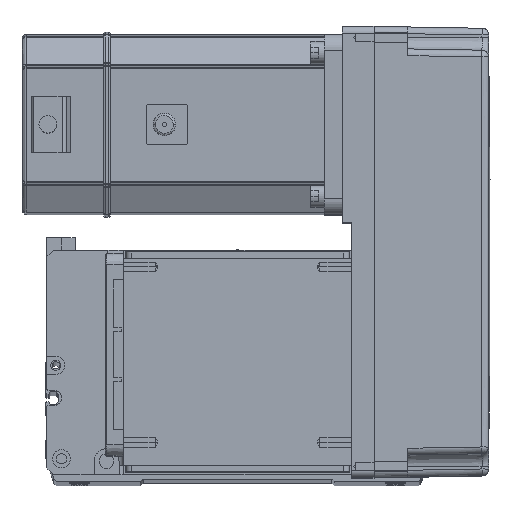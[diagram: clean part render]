
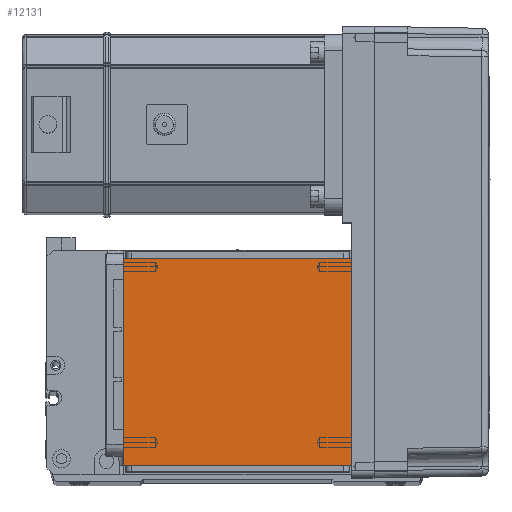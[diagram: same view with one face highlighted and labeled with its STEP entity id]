
A CAD part, top view. The second image highlights one B-rep face of the part: STEP entity #12131.
In plain terms, the highlighted planar face has unit normal (0, 0, 1).
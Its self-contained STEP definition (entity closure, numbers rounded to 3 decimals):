
#5 = EDGE_CURVE ( 'NONE', #36045, #15945, #14023, .T. ) ;
#2079 = VECTOR ( 'NONE', #37757, 1000. ) ;
#6860 = ORIENTED_EDGE ( 'NONE', *, *, #20298, .T. ) ;
#9103 = PLANE ( 'NONE',  #41846 ) ;
#9532 = CARTESIAN_POINT ( 'NONE',  ( -50.5, 20., 115. ) ) ;
#10282 = ORIENTED_EDGE ( 'NONE', *, *, #5, .F. ) ;
#10658 = CARTESIAN_POINT ( 'NONE',  ( -70.004, 111.5, 115. ) ) ;
#11322 = CARTESIAN_POINT ( 'NONE',  ( -70.004, 20., 115. ) ) ;
#12131 = ADVANCED_FACE ( 'NONE', ( #38791 ), #9103, .T. ) ;
#14023 = LINE ( 'NONE', #11322, #2079 ) ;
#15945 = VERTEX_POINT ( 'NONE', #9532 ) ;
#20026 = ORIENTED_EDGE ( 'NONE', *, *, #48353, .T. ) ;
#20298 = EDGE_CURVE ( 'NONE', #36045, #25314, #55311, .T. ) ;
#24370 = CARTESIAN_POINT ( 'NONE',  ( 50.5, 20., 115. ) ) ;
#24874 = DIRECTION ( 'NONE',  ( 0., -1., 0. ) ) ;
#25274 = CARTESIAN_POINT ( 'NONE',  ( -50.5, 122., 115. ) ) ;
#25314 = VERTEX_POINT ( 'NONE', #46023 ) ;
#26786 = CARTESIAN_POINT ( 'NONE',  ( 0., 0., 115. ) ) ;
#31525 = VECTOR ( 'NONE', #36040, 1000. ) ;
#33026 = EDGE_LOOP ( 'NONE', ( #34838, #20026, #10282, #6860 ) ) ;
#34838 = ORIENTED_EDGE ( 'NONE', *, *, #45989, .F. ) ;
#36040 = DIRECTION ( 'NONE',  ( 0., 1., 0. ) ) ;
#36045 = VERTEX_POINT ( 'NONE', #24370 ) ;
#36124 = DIRECTION ( 'NONE',  ( 1., 0., 0. ) ) ;
#37757 = DIRECTION ( 'NONE',  ( -1., 0., 0. ) ) ;
#38508 = CARTESIAN_POINT ( 'NONE',  ( -50.5, 111.5, 115. ) ) ;
#38791 = FACE_OUTER_BOUND ( 'NONE', #33026, .T. ) ;
#39337 = LINE ( 'NONE', #25274, #51971 ) ;
#40191 = CARTESIAN_POINT ( 'NONE',  ( 50.5, 122., 115. ) ) ;
#41846 = AXIS2_PLACEMENT_3D ( 'NONE', #26786, #49467, #36124 ) ;
#41978 = VECTOR ( 'NONE', #46667, 1000. ) ;
#44791 = LINE ( 'NONE', #10658, #41978 ) ;
#45989 = EDGE_CURVE ( 'NONE', #51487, #25314, #44791, .T. ) ;
#46023 = CARTESIAN_POINT ( 'NONE',  ( 50.5, 111.5, 115. ) ) ;
#46667 = DIRECTION ( 'NONE',  ( 1., 0., 0. ) ) ;
#48353 = EDGE_CURVE ( 'NONE', #51487, #15945, #39337, .T. ) ;
#49467 = DIRECTION ( 'NONE',  ( 0., 0., 1. ) ) ;
#51487 = VERTEX_POINT ( 'NONE', #38508 ) ;
#51971 = VECTOR ( 'NONE', #24874, 1000. ) ;
#55311 = LINE ( 'NONE', #40191, #31525 ) ;
